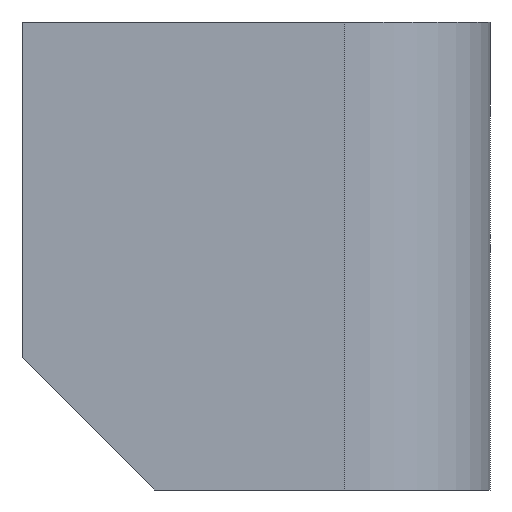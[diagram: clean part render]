
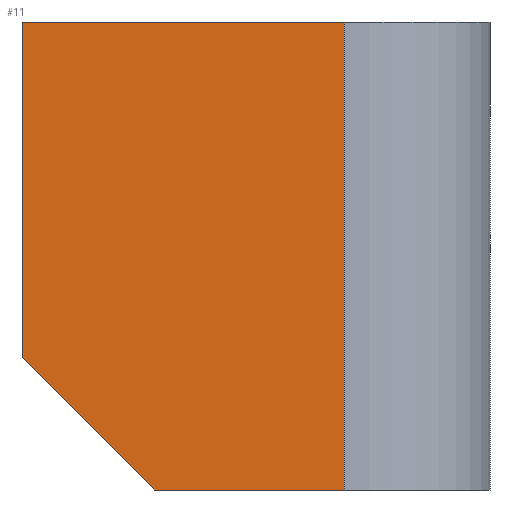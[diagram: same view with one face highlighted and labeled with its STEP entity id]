
A CAD part, front view. The second image highlights one B-rep face of the part: STEP entity #11.
In plain terms, the highlighted planar face has unit normal (0, -1, 0).
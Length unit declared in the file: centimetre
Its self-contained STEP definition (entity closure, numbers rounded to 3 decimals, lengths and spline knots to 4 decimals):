
#11 = ADVANCED_FACE ( 'NONE', ( #261 ), #264, .F. ) ;
#16 = CARTESIAN_POINT ( 'NONE',  ( 0., 0., 282.8165 ) ) ;
#26 = DIRECTION ( 'NONE',  ( 0., 0., 1. ) ) ;
#27 = CARTESIAN_POINT ( 'NONE',  ( 688.9579, 0., 1000. ) ) ;
#34 = CARTESIAN_POINT ( 'NONE',  ( 0., 0., 282.8165 ) ) ;
#42 = EDGE_CURVE ( 'NONE', #340, #62, #52, .T. ) ;
#52 = LINE ( 'NONE', #496, #158 ) ;
#62 = VERTEX_POINT ( 'NONE', #489 ) ;
#71 = LINE ( 'NONE', #309, #358 ) ;
#74 = CARTESIAN_POINT ( 'NONE',  ( 0., 0., 1000. ) ) ;
#111 = DIRECTION ( 'NONE',  ( 1., 0., 0. ) ) ;
#118 = LINE ( 'NONE', #163, #159 ) ;
#130 = EDGE_CURVE ( 'NONE', #296, #340, #398, .T. ) ;
#144 = ORIENTED_EDGE ( 'NONE', *, *, #130, .T. ) ;
#151 = DIRECTION ( 'NONE',  ( 0., 1., 0. ) ) ;
#152 = VERTEX_POINT ( 'NONE', #27 ) ;
#158 = VECTOR ( 'NONE', #111, 100. ) ;
#159 = VECTOR ( 'NONE', #313, 100. ) ;
#163 = CARTESIAN_POINT ( 'NONE',  ( 688.9579, 0., 1000. ) ) ;
#194 = EDGE_CURVE ( 'NONE', #281, #152, #71, .T. ) ;
#195 = VECTOR ( 'NONE', #227, 100. ) ;
#201 = EDGE_CURVE ( 'NONE', #281, #296, #502, .T. ) ;
#227 = DIRECTION ( 'NONE',  ( 0., 0., -1. ) ) ;
#236 = AXIS2_PLACEMENT_3D ( 'NONE', #378, #151, #26 ) ;
#261 = FACE_OUTER_BOUND ( 'NONE', #482, .T. ) ;
#264 = PLANE ( 'NONE',  #236 ) ;
#281 = VERTEX_POINT ( 'NONE', #74 ) ;
#285 = ORIENTED_EDGE ( 'NONE', *, *, #201, .T. ) ;
#296 = VERTEX_POINT ( 'NONE', #34 ) ;
#307 = VECTOR ( 'NONE', #451, 100. ) ;
#309 = CARTESIAN_POINT ( 'NONE',  ( 0., 0., 1000. ) ) ;
#312 = EDGE_CURVE ( 'NONE', #62, #152, #118, .T. ) ;
#313 = DIRECTION ( 'NONE',  ( 0., 0., 1. ) ) ;
#340 = VERTEX_POINT ( 'NONE', #371 ) ;
#358 = VECTOR ( 'NONE', #384, 100. ) ;
#371 = CARTESIAN_POINT ( 'NONE',  ( 282.8165, 0., 0. ) ) ;
#376 = ORIENTED_EDGE ( 'NONE', *, *, #42, .T. ) ;
#378 = CARTESIAN_POINT ( 'NONE',  ( 0., 0., 1000. ) ) ;
#382 = CARTESIAN_POINT ( 'NONE',  ( 0., 0., 1000. ) ) ;
#384 = DIRECTION ( 'NONE',  ( 1., 0., 0. ) ) ;
#398 = LINE ( 'NONE', #16, #307 ) ;
#440 = ORIENTED_EDGE ( 'NONE', *, *, #194, .F. ) ;
#451 = DIRECTION ( 'NONE',  ( 0.707, 0., -0.707 ) ) ;
#482 = EDGE_LOOP ( 'NONE', ( #285, #144, #376, #495, #440 ) ) ;
#489 = CARTESIAN_POINT ( 'NONE',  ( 688.9579, 0., 0. ) ) ;
#495 = ORIENTED_EDGE ( 'NONE', *, *, #312, .T. ) ;
#496 = CARTESIAN_POINT ( 'NONE',  ( 0., 0., 0. ) ) ;
#502 = LINE ( 'NONE', #382, #195 ) ;
